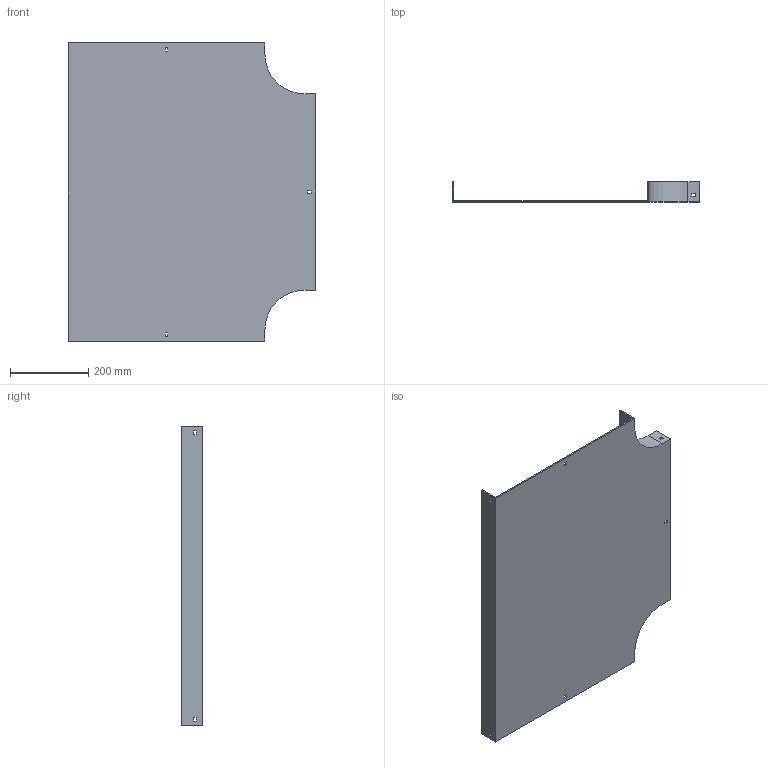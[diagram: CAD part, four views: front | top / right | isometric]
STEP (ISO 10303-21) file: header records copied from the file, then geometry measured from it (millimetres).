
FILE_DESCRIPTION (( 'STEP AP214' ), '1' );
FILE_NAME ('15F1B500.step', '2025-02-21T13:04:26', ( '' ), ( '' ), 'SwSTEP 2.0', 'SolidWorks 2023', '' );
FILE_SCHEMA (( 'AUTOMOTIVE_DESIGN' ));
Length unit declared in the file: millimetre
Products named in the file (1): 15F1B500
Bounding box: 634 x 52 x 764 mm (x, y, z)
Volume: 1794274.7 mm3; surface area: 1036843.4 mm2
Topology: 1 solids, 1 shells, 58 faces, 168 edges, 112 vertices
Faces by surface type: plane 54, cylinder 4
Entity records: 1939 total; most frequent: CARTESIAN_POINT 339, ORIENTED_EDGE 336, DIRECTION 294, EDGE_CURVE 168, VECTOR 160, LINE 160, VERTEX_POINT 112, EDGE_LOOP 76
